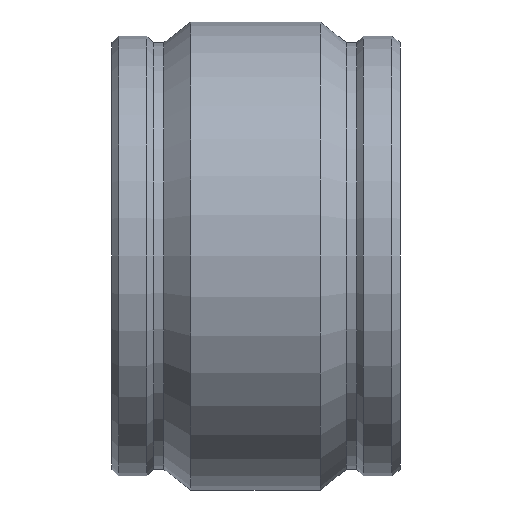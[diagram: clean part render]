
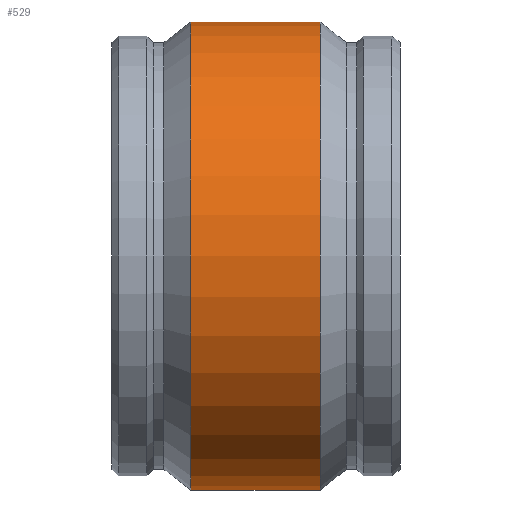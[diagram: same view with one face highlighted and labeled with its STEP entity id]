
A CAD part, front view. The second image highlights one B-rep face of the part: STEP entity #529.
In plain terms, the highlighted cylindrical face has radius 241.3 mm (diameter 482.6 mm), a full revolution.
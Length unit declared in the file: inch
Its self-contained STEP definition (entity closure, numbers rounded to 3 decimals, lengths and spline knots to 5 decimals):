
#50=LINE('',#992,#72);
#72=VECTOR('',#748,9.5);
#89=CYLINDRICAL_SURFACE('',#605,9.5);
#113=FACE_OUTER_BOUND('',#151,.T.);
#151=EDGE_LOOP('',(#421,#422,#423,#424,#425,#426));
#191=CIRCLE('',#603,9.5);
#192=CIRCLE('',#604,9.5);
#193=CIRCLE('',#606,9.5);
#194=CIRCLE('',#607,9.5);
#245=VERTEX_POINT('',#982);
#246=VERTEX_POINT('',#983);
#247=VERTEX_POINT('',#988);
#248=VERTEX_POINT('',#989);
#309=EDGE_CURVE('',#245,#246,#191,.T.);
#310=EDGE_CURVE('',#246,#245,#192,.T.);
#312=EDGE_CURVE('',#247,#248,#193,.T.);
#313=EDGE_CURVE('',#248,#247,#194,.T.);
#314=EDGE_CURVE('',#248,#246,#50,.T.);
#421=ORIENTED_EDGE('',*,*,#312,.F.);
#422=ORIENTED_EDGE('',*,*,#313,.F.);
#423=ORIENTED_EDGE('',*,*,#314,.T.);
#424=ORIENTED_EDGE('',*,*,#310,.T.);
#425=ORIENTED_EDGE('',*,*,#309,.T.);
#426=ORIENTED_EDGE('',*,*,#314,.F.);
#529=ADVANCED_FACE('',(#113),#89,.T.);
#603=AXIS2_PLACEMENT_3D('',#984,#737,#738);
#604=AXIS2_PLACEMENT_3D('',#985,#739,#740);
#605=AXIS2_PLACEMENT_3D('',#987,#742,#743);
#606=AXIS2_PLACEMENT_3D('',#990,#744,#745);
#607=AXIS2_PLACEMENT_3D('',#991,#746,#747);
#737=DIRECTION('center_axis',(1.,0.,0.));
#738=DIRECTION('ref_axis',(0.,0.,-1.));
#739=DIRECTION('center_axis',(1.,0.,0.));
#740=DIRECTION('ref_axis',(0.,0.,-1.));
#742=DIRECTION('center_axis',(1.,0.,0.));
#743=DIRECTION('ref_axis',(0.,1.,0.));
#744=DIRECTION('center_axis',(1.,0.,0.));
#745=DIRECTION('ref_axis',(0.,0.,-1.));
#746=DIRECTION('center_axis',(1.,0.,0.));
#747=DIRECTION('ref_axis',(0.,0.,-1.));
#748=DIRECTION('',(-1.,0.,0.));
#982=CARTESIAN_POINT('',(-2.6525,9.5,0.));
#983=CARTESIAN_POINT('',(-2.6525,-9.5,0.));
#984=CARTESIAN_POINT('Origin',(-2.6525,0.,0.));
#985=CARTESIAN_POINT('Origin',(-2.6525,0.,0.));
#987=CARTESIAN_POINT('Origin',(-0.02,0.,0.));
#988=CARTESIAN_POINT('',(2.6125,9.5,0.));
#989=CARTESIAN_POINT('',(2.6125,-9.5,0.));
#990=CARTESIAN_POINT('Origin',(2.6125,0.,0.));
#991=CARTESIAN_POINT('Origin',(2.6125,0.,0.));
#992=CARTESIAN_POINT('',(-0.02,-9.5,0.));
